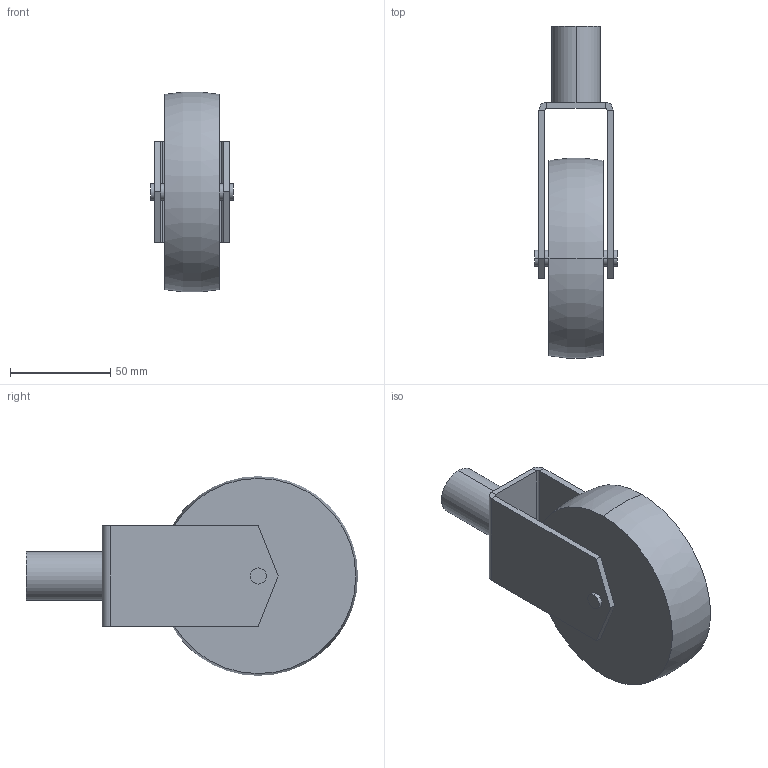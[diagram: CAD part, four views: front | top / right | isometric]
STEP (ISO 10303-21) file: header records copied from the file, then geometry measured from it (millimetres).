
FILE_DESCRIPTION (( 'STEP AP214' ), '1' );
FILE_NAME ('SGK100C.step', '2024-02-15T04:33:08', ( 'catia' ), ( 'HP Inc.' ), 'SwSTEP 2.0', 'SolidWorks 2021', '' );
FILE_SCHEMA (( 'AUTOMOTIVE_DESIGN' ));
Length unit declared in the file: millimetre
Products named in the file (1): SGK100C
Bounding box: 41 x 165.86 x 99.73 mm (x, y, z)
Volume: 255451.6 mm3; surface area: 47189.5 mm2
Topology: 1 solids, 1 shells, 41 faces, 86 edges, 52 vertices
Faces by surface type: plane 25, cylinder 14, torus 2
Entity records: 1124 total; most frequent: DIRECTION 204, CARTESIAN_POINT 180, ORIENTED_EDGE 172, EDGE_CURVE 86, AXIS2_PLACEMENT_3D 76, VECTOR 52, LINE 52, VERTEX_POINT 52
